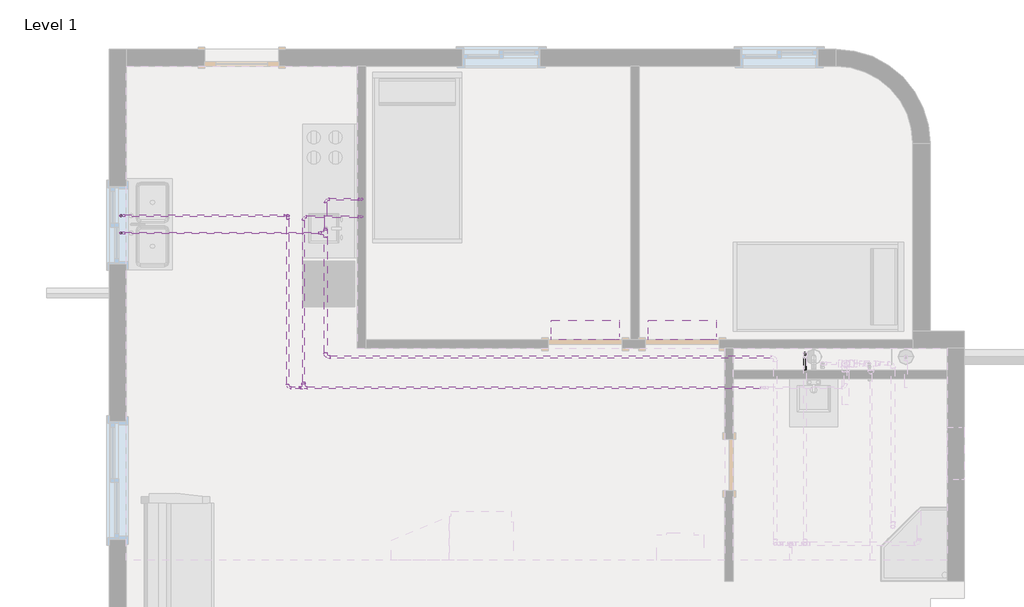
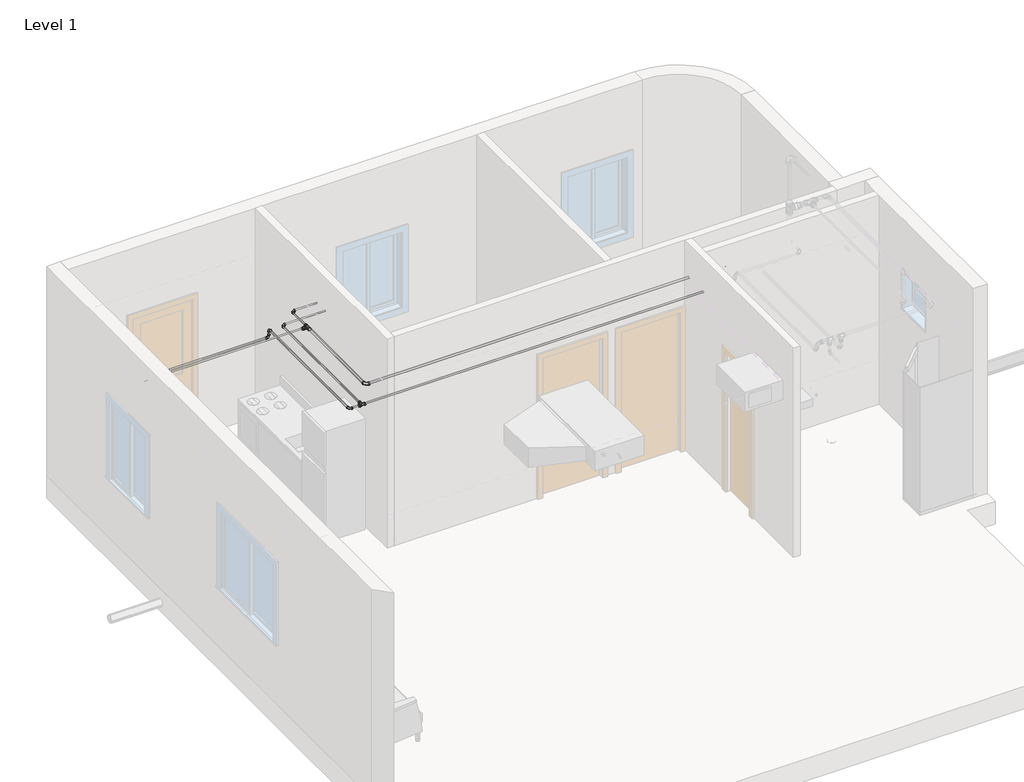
# One storey, part 4 of 5: 29 pipe fittings, 29 pipe segments, 2 proxies.
"""IFC4 building model written with IfcOpenShell, lengths in millimetres."""

from ifc_helpers import new_model, si_unit, point, frame, frame_2d, origin, place, context, project, spatial, circle_curve, trimmed, segment, composite_curve, outline, extrude, transform, mapped, element, save
from components import proxy_2_9kw_1a9f3e23, m_bend_pvc_sch_40_dwv_standard_b153bf5a, m_bend_pvc_sch_40_dwv_standard_42e46e6b, m_bend_pvc_sch_40_dwv_standard_738aab8b, m_bend_pvc_sch_40_dwv_standard_5de4d804, m_reducer_pvc_sch_40_dwv_standard_d6f2da47, m_reducer_pvc_sch_40_dwv_standard_9acc3786, m_reducer_pvc_sch_40_dwv_standard_9996614f, m_reducer_pvc_sch_40_dwv_standard_1887a0f2, m_reducer_pvc_sch_40_dwv_standard_435e6c66, m_tee_sanitary_pvc_sch_40_dwv_standard_64dc8774, m_tee_sanitary_pvc_sch_40_dwv_standard_52472e72

model = new_model("IFC4")

# Units and contexts
model_context = context("Model", 3, world=origin())
ifc_project = project(units=[si_unit("LENGTHUNIT", "METRE", prefix="MILLI")], contexts=[model_context])

# Site, building, storey
site = spatial("IfcSite", under=ifc_project)
building = spatial("IfcBuilding", under=site)
storey = spatial("IfcBuildingStorey", under=building, Name="Level 1", Elevation=0.0)

# Proxies
placement = place(None, origin())
proxy_2_9kw_shape = proxy_2_9kw_1a9f3e23(model_context)
element("IfcBuildingElementProxy", 1, Name="Fan_Coil_Unit-Daikin-FXAQ-P-WallMount-ConnBack : 2.9Kw", ObjectType="Fan_Coil_Unit-Daikin-FXAQ-P-WallMount-ConnBack : 2.9Kw", at=placement, inside=storey, context=model_context, shape_type="MappedRepresentation", body=[
    mapped(proxy_2_9kw_shape, transform((-11794.9123896, 960.4550672, 2550.05), x_axis=(-1.0000000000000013, 0.0, 0.0), y_axis=(0.0, -1.0000000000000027, 0.0), z_axis=(0.0, 0.0, 1.0000000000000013))),
])
element("IfcBuildingElementProxy", 2, Name="Fan_Coil_Unit-Daikin-FXAQ-P-WallMount-ConnBack : 2.9Kw", ObjectType="Fan_Coil_Unit-Daikin-FXAQ-P-WallMount-ConnBack : 2.9Kw", at=placement, inside=storey, context=model_context, shape_type="MappedRepresentation", body=[
    mapped(proxy_2_9kw_shape, transform((-10662.9123896, 960.4550672, 2550.05), x_axis=(-1.0000000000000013, 0.0, 0.0), y_axis=(0.0, -1.0000000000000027, 0.0), z_axis=(0.0, 0.0, 1.0000000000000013))),
])

# Pipe fittings
m_bend_pvc_sch_40_dwv_standard_shape = m_bend_pvc_sch_40_dwv_standard_b153bf5a(model_context)
element("IfcPipeFitting", 3, ObjectType="M_Bend - PVC - Sch 40 - DWV : Standard", at=placement, inside=storey, context=model_context, shape_type="MappedRepresentation", body=[
    mapped(m_bend_pvc_sch_40_dwv_standard_shape, transform((-14832.9118821, 644.5675672, 2690.029654), x_axis=(0.0, -0.9999999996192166, -2.7596499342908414e-05), y_axis=(0.9999999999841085, 1.5557919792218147e-10, -5.637642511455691e-06), z_axis=(5.637642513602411e-06, -2.7596499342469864e-05, 0.9999999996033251))),
])
m_bend_pvc_sch_40_dwv_standard_2_shape = m_bend_pvc_sch_40_dwv_standard_42e46e6b(model_context)
element("IfcPipeFitting", 4, ObjectType="M_Bend - PVC - Sch 40 - DWV : Standard", at=placement, inside=storey, context=model_context, shape_type="MappedRepresentation", body=[
    mapped(m_bend_pvc_sch_40_dwv_standard_2_shape, transform((-17105.7623896, 2298.6675672, 755.0), x_axis=(0.0, 0.0, -1.0), y_axis=(-1.0, 0.0, 0.0), z_axis=(0.0, 1.0, 0.0))),
])
element("IfcPipeFitting", 5, ObjectType="M_Bend - PVC - Sch 40 - DWV : Standard", at=placement, inside=storey, context=model_context, shape_type="MappedRepresentation", body=[
    mapped(m_bend_pvc_sch_40_dwv_standard_2_shape, transform((-17225.7623896, 2298.6675672, 755.0), x_axis=(-1.0, 0.0, 0.0), y_axis=(0.0, 0.0, 1.0), z_axis=(0.0, 1.0, 0.0))),
])
element("IfcPipeFitting", 6, ObjectType="M_Bend - PVC - Sch 40 - DWV : Standard", at=placement, inside=storey, context=model_context, shape_type="MappedRepresentation", body=[
    mapped(m_bend_pvc_sch_40_dwv_standard_2_shape, transform((-17225.7623896, 2095.4675672, 755.0), x_axis=(-1.0, 0.0, 0.0), y_axis=(0.0, 0.0, 1.0), z_axis=(0.0, 1.0, 0.0))),
])
element("IfcPipeFitting", 7, ObjectType="M_Bend - PVC - Sch 40 - DWV : Standard", at=placement, inside=storey, context=model_context, shape_type="MappedRepresentation", body=[
    mapped(m_bend_pvc_sch_40_dwv_standard_2_shape, transform((-17105.7623896, 2095.4675672, 755.0), x_axis=(1.0, 0.0, 0.0), y_axis=(0.0, 0.0, 1.0), z_axis=(0.0, -1.0, 0.0))),
])
element("IfcPipeFitting", 8, ObjectType="M_Bend - PVC - Sch 40 - DWV : Standard", at=placement, inside=storey, context=model_context, shape_type="MappedRepresentation", body=[
    mapped(m_bend_pvc_sch_40_dwv_standard_2_shape, transform((-14412.9123896, 2286.2683858, 731.8375), x_axis=(1.0, 0.0, 0.0), y_axis=(0.0, 0.0, 1.0), z_axis=(0.0, -1.0, 0.0))),
])
element("IfcPipeFitting", 9, ObjectType="M_Bend - PVC - Sch 40 - DWV : Standard", at=placement, inside=storey, context=model_context, shape_type="MappedRepresentation", body=[
    mapped(m_bend_pvc_sch_40_dwv_standard_2_shape, transform((-14412.9123896, 2489.4683858, 731.8375), x_axis=(1.0, 0.0, 0.0), y_axis=(0.0, 0.0, 1.0), z_axis=(0.0, -1.0, 0.0))),
])
element("IfcPipeFitting", 10, ObjectType="M_Bend - PVC - Sch 40 - DWV : Standard", at=placement, inside=storey, context=model_context, shape_type="MappedRepresentation", body=[
    mapped(m_bend_pvc_sch_40_dwv_standard_2_shape, transform((-14412.9123896, 2489.4631116, 2690.0704647), x_axis=(0.0, 0.0, 1.0), y_axis=(-1.0, 0.0, 0.0), z_axis=(0.0, -1.0, 0.0))),
])
element("IfcPipeFitting", 11, ObjectType="M_Bend - PVC - Sch 40 - DWV : Standard", at=placement, inside=storey, context=model_context, shape_type="MappedRepresentation", body=[
    mapped(m_bend_pvc_sch_40_dwv_standard_2_shape, transform((-14832.9118821, 2489.4631116, 2690.0704647), x_axis=(-1.0, 0.0, 0.0), y_axis=(0.0, -1.0, 0.0), z_axis=(0.0, 0.0, 1.0))),
])
element("IfcPipeFitting", 12, ObjectType="M_Bend - PVC - Sch 40 - DWV : Standard", at=placement, inside=storey, context=model_context, shape_type="MappedRepresentation", body=[
    mapped(m_bend_pvc_sch_40_dwv_standard_2_shape, transform((-17225.7623896, 2298.6675672, 2567.7663747), x_axis=(0.0, 0.0, 1.0), y_axis=(0.9999797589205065, -0.006362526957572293, 0.0), z_axis=(0.006362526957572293, 0.9999797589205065, 0.0))),
])
element("IfcPipeFitting", 13, ObjectType="M_Bend - PVC - Sch 40 - DWV : Standard", at=placement, inside=storey, context=model_context, shape_type="MappedRepresentation", body=[
    mapped(m_bend_pvc_sch_40_dwv_standard_2_shape, transform((-15274.7491573, 2298.4066141, 2567.7663747), x_axis=(0.0, 0.0, -1.0), y_axis=(-0.9999797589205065, 0.006362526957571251, 0.0), z_axis=(0.006362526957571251, 0.9999797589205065, 0.0))),
])
element("IfcPipeFitting", 14, ObjectType="M_Bend - PVC - Sch 40 - DWV : Standard", at=placement, inside=storey, context=model_context, shape_type="MappedRepresentation", body=[
    mapped(m_bend_pvc_sch_40_dwv_standard_2_shape, transform((-14412.9123896, 2286.2683858, 2690.0), x_axis=(0.0, 0.0, 1.0), y_axis=(-1.0, 0.0, 0.0), z_axis=(0.0, -1.0, 0.0))),
])
element("IfcPipeFitting", 15, ObjectType="M_Bend - PVC - Sch 40 - DWV : Standard", at=placement, inside=storey, context=model_context, shape_type="MappedRepresentation", body=[
    mapped(m_bend_pvc_sch_40_dwv_standard_2_shape, transform((-15274.7491573, 2298.4066141, 2690.0), x_axis=(0.0, 0.0, 1.0), y_axis=(0.0, -1.0, 0.0), z_axis=(1.0, 0.0, 0.0))),
])
element("IfcPipeFitting", 16, ObjectType="M_Bend - PVC - Sch 40 - DWV : Standard", at=placement, inside=storey, context=model_context, shape_type="MappedRepresentation", body=[
    mapped(m_bend_pvc_sch_40_dwv_standard_2_shape, transform((-15274.7491573, 286.2683858, 2690.0), x_axis=(0.0, -1.0, 0.0), y_axis=(1.0, 0.0, 0.0), z_axis=(0.0, 0.0, 1.0))),
])
element("IfcPipeFitting", 17, ObjectType="M_Bend - PVC - Sch 40 - DWV : Standard", at=placement, inside=storey, context=model_context, shape_type="MappedRepresentation", body=[
    mapped(m_bend_pvc_sch_40_dwv_standard_2_shape, transform((-15091.8983271, 2286.2683858, 2690.0), x_axis=(-1.0, 0.0, 0.0), y_axis=(0.0, -1.0, 0.0), z_axis=(0.0, 0.0, 1.0))),
])
m_bend_pvc_sch_40_dwv_standard_3_shape = m_bend_pvc_sch_40_dwv_standard_738aab8b(model_context)
element("IfcPipeFitting", 18, ObjectType="M_Bend - PVC - Sch 40 - DWV : Standard", at=placement, inside=storey, context=model_context, shape_type="MappedRepresentation", body=[
    mapped(m_bend_pvc_sch_40_dwv_standard_3_shape, transform((-16857.3123896, 2453.7925672, -205.0), x_axis=(0.0, 0.0, -1.0), y_axis=(0.0, -1.0, 0.0), z_axis=(-1.0, 0.0, 0.0))),
])
element("IfcPipeFitting", 19, ObjectType="M_Bend - PVC - Sch 40 - DWV : Standard", at=placement, inside=storey, context=model_context, shape_type="MappedRepresentation", body=[
    mapped(m_bend_pvc_sch_40_dwv_standard_3_shape, transform((-14831.2123896, 2148.5996358, -205.0), x_axis=(0.0, 0.0, -1.0), y_axis=(0.0, -1.0, 0.0), z_axis=(-1.0, 0.0, 0.0))),
])
element("IfcPipeFitting", 20, ObjectType="M_Bend - PVC - Sch 40 - DWV : Standard", at=placement, inside=storey, context=model_context, shape_type="MappedRepresentation", body=[
    mapped(m_bend_pvc_sch_40_dwv_standard_3_shape, transform((-14831.2123896, 1392.8931268, -205.0), x_axis=(1.0, 0.0, 0.0), y_axis=(0.0, 1.0, 0.0), z_axis=(0.0, 0.0, 1.0))),
])
m_bend_pvc_sch_40_dwv_standard_4_shape = m_bend_pvc_sch_40_dwv_standard_5de4d804(model_context)
element("IfcPipeFitting", 21, ObjectType="M_Bend - PVC - Sch 40 - DWV : Standard", at=placement, inside=storey, context=model_context, shape_type="MappedRepresentation", body=[
    mapped(m_bend_pvc_sch_40_dwv_standard_4_shape, transform((-17225.7618668, 2095.462293, 2690.0798723), x_axis=(0.0, 0.0, 1.0), y_axis=(1.0, 0.0, 0.0), z_axis=(0.0, 1.0, 0.0))),
])
m_reducer_pvc_sch_40_dwv_standard_shape = m_reducer_pvc_sch_40_dwv_standard_d6f2da47(model_context)
element("IfcPipeFitting", 22, ObjectType="M_Reducer - PVC - Sch 40 - DWV : Standard", at=placement, inside=storey, context=model_context, shape_type="MappedRepresentation", body=[
    mapped(m_reducer_pvc_sch_40_dwv_standard_shape, transform((-16857.3123896, 2012.9581922, -205.0), x_axis=(0.0, 1.0, 0.0), y_axis=(-1.0, 0.0, 0.0), z_axis=(0.0, 0.0, 1.0))),
])
element("IfcPipeFitting", 23, ObjectType="M_Reducer - PVC - Sch 40 - DWV : Standard", at=placement, inside=storey, context=model_context, shape_type="MappedRepresentation", body=[
    mapped(m_reducer_pvc_sch_40_dwv_standard_shape, transform((-16857.3123896, 1940.3425672, -105.9859375), x_axis=(0.0, 0.0, 1.0), y_axis=(0.0, 1.0, 0.0), z_axis=(-1.0, 0.0, 0.0))),
])
m_reducer_pvc_sch_40_dwv_standard_2_shape = m_reducer_pvc_sch_40_dwv_standard_9acc3786(model_context)
element("IfcPipeFitting", 24, ObjectType="M_Reducer - PVC - Sch 40 - DWV : Standard", at=placement, inside=storey, context=model_context, shape_type="MappedRepresentation", body=[
    mapped(m_reducer_pvc_sch_40_dwv_standard_2_shape, transform((-16755.7123896, 1392.8931268, -205.0), x_axis=(1.0, 0.0, 0.0), y_axis=(0.0, 1.0, 0.0), z_axis=(0.0, 0.0, 1.0))),
])
m_reducer_pvc_sch_40_dwv_standard_3_shape = m_reducer_pvc_sch_40_dwv_standard_9996614f(model_context)
element("IfcPipeFitting", 25, ObjectType="M_Reducer - PVC - Sch 40 - DWV : Standard", at=placement, inside=storey, context=model_context, shape_type="MappedRepresentation", body=[
    mapped(m_reducer_pvc_sch_40_dwv_standard_3_shape, transform((-16857.3123896, 1535.7681268, -205.0), x_axis=(0.0, 1.0, 0.0), y_axis=(-1.0, 0.0, 0.0), z_axis=(0.0, 0.0, 1.0))),
])
m_reducer_pvc_sch_40_dwv_standard_4_shape = m_reducer_pvc_sch_40_dwv_standard_1887a0f2(model_context)
element("IfcPipeFitting", 26, ObjectType="M_Reducer - PVC - Sch 40 - DWV : Standard", at=placement, inside=storey, context=model_context, shape_type="MappedRepresentation", body=[
    mapped(m_reducer_pvc_sch_40_dwv_standard_4_shape, transform((-14832.9118821, 2126.077918, 2690.070756), x_axis=(0.0, 0.9999999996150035, 2.7748749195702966e-05), y_axis=(-0.9999999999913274, -1.1556816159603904e-10, 4.164806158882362e-06), z_axis=(4.164806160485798e-06, -2.7748749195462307e-05, 0.9999999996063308))),
])
element("IfcPipeFitting", 27, ObjectType="M_Reducer - PVC - Sch 40 - DWV : Standard", at=placement, inside=storey, context=model_context, shape_type="MappedRepresentation", body=[
    mapped(m_reducer_pvc_sch_40_dwv_standard_4_shape, transform((-14885.5259446, 2095.462293, 2690.0701256), x_axis=(-0.9999999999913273, 0.0, 4.164806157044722e-06), y_axis=(-1.155681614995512e-10, -0.9999999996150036, -2.7748749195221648e-05), z_axis=(4.164806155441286e-06, -2.7748749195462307e-05, 0.9999999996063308))),
])
m_reducer_pvc_sch_40_dwv_standard_5_shape = m_reducer_pvc_sch_40_dwv_standard_435e6c66(model_context)
element("IfcPipeFitting", 28, ObjectType="M_Reducer - PVC - Sch 40 - DWV : Standard", at=placement, inside=storey, context=model_context, shape_type="MappedRepresentation", body=[
    mapped(m_reducer_pvc_sch_40_dwv_standard_5_shape, transform((-15117.2639521, 286.2683858, 2690.0), x_axis=(-1.0, 0.0, 0.0), y_axis=(0.0, -1.0, 0.0), z_axis=(0.0, 0.0, 1.0))),
])
element("IfcPipeFitting", 29, ObjectType="M_Reducer - PVC - Sch 40 - DWV : Standard", at=placement, inside=storey, context=model_context, shape_type="MappedRepresentation", body=[
    mapped(m_reducer_pvc_sch_40_dwv_standard_5_shape, transform((-15091.8983271, 333.0824483, 2690.0), x_axis=(0.0, 1.0, 0.0), y_axis=(-1.0, 0.0, 0.0), z_axis=(0.0, 0.0, 1.0))),
])
m_tee_sanitary_pvc_sch_40_dwv_standard_shape = m_tee_sanitary_pvc_sch_40_dwv_standard_64dc8774(model_context)
element("IfcPipeFitting", 30, ObjectType="M_Tee Sanitary - PVC - Sch 40 - DWV : Standard", at=placement, inside=storey, context=model_context, shape_type="MappedRepresentation", body=[
    mapped(m_tee_sanitary_pvc_sch_40_dwv_standard_shape, transform((-14832.9118821, 2095.462293, 2690.0699065), x_axis=(0.0, 0.9999999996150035, 2.7748749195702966e-05), y_axis=(0.9999999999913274, 1.1556816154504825e-10, -4.164806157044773e-06), z_axis=(-4.164806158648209e-06, 2.774874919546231e-05, -0.9999999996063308))),
])
m_tee_sanitary_pvc_sch_40_dwv_standard_2_shape = m_tee_sanitary_pvc_sch_40_dwv_standard_52472e72(model_context)
element("IfcPipeFitting", 31, ObjectType="M_Tee Sanitary - PVC - Sch 40 - DWV : Standard", at=placement, inside=storey, context=model_context, shape_type="MappedRepresentation", body=[
    mapped(m_tee_sanitary_pvc_sch_40_dwv_standard_2_shape, transform((-15091.8983271, 286.2683858, 2690.0), x_axis=(-1.0, 0.0, 0.0), y_axis=(0.0, -1.0, 0.0), z_axis=(0.0, 0.0, 1.0))),
])

# Pipe segments
element("IfcPipeSegment", 32, ObjectType="PVC - DWV", at=placement, inside=storey, context=model_context, shape_type="SweptSolid", body=[
    extrude(outline(composite_curve([segment(trimmed(circle_curve(frame_2d((814.2, -9225.3942941)), 16.7005), [point((814.2, -9208.6937941))], [point((830.9005, -9225.3942941))], False, "CARTESIAN"), True, "CONTINUOUS"), segment(trimmed(circle_curve(frame_2d((814.2, -9225.3942941)), 16.7005), [point((830.9005, -9225.3942941))], [point((814.2, -9242.0947941))], False, "CARTESIAN"), True, "CONTINUOUS"), segment(trimmed(circle_curve(frame_2d((814.2, -9225.3942941)), 16.7005), [point((814.2, -9242.0947941))], [point((797.4995, -9225.3942941))], False, "CARTESIAN"), True, "CONTINUOUS"), segment(trimmed(circle_curve(frame_2d((814.2, -9225.3942941)), 16.7005), [point((797.4995, -9225.3942941))], [point((814.2, -9208.6937941))], False, "CARTESIAN"), True, "CONTINUOUS")], self_intersect=False)), frame((0.0, 387.9749846, 0.0), z_axis=(0.0, 1.0, 0.0), x_axis=(0.0, 0.0, 1.0)), (0.0, 0.0, 1.0), 243.9785201),
])
element("IfcPipeSegment", 33, ObjectType="PVC - DWV", at=placement, inside=storey, context=model_context, shape_type="SweptSolid", body=[
    extrude(outline(composite_curve([segment(trimmed(circle_curve(frame_2d((-9225.3942941, 684.5675672)), 16.7005), [point((-9242.0947941, 684.5675672))], [point((-9225.3942941, 701.2680672))], False, "CARTESIAN"), True, "CONTINUOUS"), segment(trimmed(circle_curve(frame_2d((-9225.3942941, 684.5675672)), 16.7005), [point((-9225.3942941, 701.2680672))], [point((-9208.6937941, 684.5675672))], False, "CARTESIAN"), True, "CONTINUOUS"), segment(trimmed(circle_curve(frame_2d((-9225.3942941, 684.5675672)), 16.7005), [point((-9208.6937941, 684.5675672))], [point((-9225.3942941, 667.8670672))], False, "CARTESIAN"), True, "CONTINUOUS"), segment(trimmed(circle_curve(frame_2d((-9225.3942941, 684.5675672)), 16.7005), [point((-9225.3942941, 667.8670672))], [point((-9242.0947941, 684.5675672))], False, "CARTESIAN"), True, "CONTINUOUS")], self_intersect=False)), frame((0.0, 0.0, 866.8140625), z_axis=(0.0, 0.0, 1.0), x_axis=(1.0, 0.0, 0.0)), (0.0, 0.0, 1.0), 1680.571875),
])
element("IfcPipeSegment", 34, ObjectType="PVC - DWV", at=placement, inside=storey, context=model_context, shape_type="SweptSolid", body=[
    extrude(outline(composite_curve([segment(trimmed(circle_curve(frame_2d((-16857.3123896, 2453.7925672)), 24.13), [point((-16833.1823896, 2453.7925672))], [point((-16857.3123896, 2429.6625672))], False, "CARTESIAN"), True, "CONTINUOUS"), segment(trimmed(circle_curve(frame_2d((-16857.3123896, 2453.7925672)), 24.13), [point((-16857.3123896, 2429.6625672))], [point((-16881.4423896, 2453.7925672))], False, "CARTESIAN"), True, "CONTINUOUS"), segment(trimmed(circle_curve(frame_2d((-16857.3123896, 2453.7925672)), 24.13), [point((-16881.4423896, 2453.7925672))], [point((-16857.3123896, 2477.9225672))], False, "CARTESIAN"), True, "CONTINUOUS"), segment(trimmed(circle_curve(frame_2d((-16857.3123896, 2453.7925672)), 24.13), [point((-16857.3123896, 2477.9225672))], [point((-16833.1823896, 2453.7925672))], False, "CARTESIAN"), True, "CONTINUOUS")], self_intersect=False)), frame((0.0, 0.0, -143.1002), z_axis=(0.0, 0.0, 1.0), x_axis=(1.0, 0.0, 0.0)), (0.0, 0.0, 1.0), 843.5752),
])
element("IfcPipeSegment", 35, ObjectType="PVC - DWV", at=placement, inside=storey, context=model_context, shape_type="SweptSolid", body=[
    extrude(outline(composite_curve([segment(trimmed(circle_curve(frame_2d((-205.0, -16857.3123896)), 24.13), [point((-205.0, -16881.4423896))], [point((-229.13, -16857.3123896))], False, "CARTESIAN"), True, "CONTINUOUS"), segment(trimmed(circle_curve(frame_2d((-205.0, -16857.3123896)), 24.13), [point((-229.13, -16857.3123896))], [point((-205.0, -16833.1823896))], False, "CARTESIAN"), True, "CONTINUOUS"), segment(trimmed(circle_curve(frame_2d((-205.0, -16857.3123896)), 24.13), [point((-205.0, -16833.1823896))], [point((-180.87, -16857.3123896))], False, "CARTESIAN"), True, "CONTINUOUS"), segment(trimmed(circle_curve(frame_2d((-205.0, -16857.3123896)), 24.13), [point((-180.87, -16857.3123896))], [point((-205.0, -16881.4423896))], False, "CARTESIAN"), True, "CONTINUOUS")], self_intersect=False)), frame((0.0, 2080.404286, 0.0), z_axis=(0.0, 1.0, 0.0), x_axis=(0.0, 0.0, 1.0)), (0.0, 0.0, 1.0), 311.4884812),
])
element("IfcPipeSegment", 36, ObjectType="PVC - DWV", at=placement, inside=storey, context=model_context, shape_type="SweptSolid", body=[
    extrude(outline(composite_curve([segment(trimmed(circle_curve(frame_2d((-14831.2123896, 2148.5996358)), 24.13), [point((-14807.0823896, 2148.5996358))], [point((-14831.2123896, 2124.4696358))], False, "CARTESIAN"), True, "CONTINUOUS"), segment(trimmed(circle_curve(frame_2d((-14831.2123896, 2148.5996358)), 24.13), [point((-14831.2123896, 2124.4696358))], [point((-14855.3423896, 2148.5996358))], False, "CARTESIAN"), True, "CONTINUOUS"), segment(trimmed(circle_curve(frame_2d((-14831.2123896, 2148.5996358)), 24.13), [point((-14855.3423896, 2148.5996358))], [point((-14831.2123896, 2172.7296358))], False, "CARTESIAN"), True, "CONTINUOUS"), segment(trimmed(circle_curve(frame_2d((-14831.2123896, 2148.5996358)), 24.13), [point((-14831.2123896, 2172.7296358))], [point((-14807.0823896, 2148.5996358))], False, "CARTESIAN"), True, "CONTINUOUS")], self_intersect=False)), frame((0.0, 0.0, -143.1002), z_axis=(0.0, 0.0, 1.0), x_axis=(1.0, 0.0, 0.0)), (0.0, 0.0, 1.0), 874.9377),
])
element("IfcPipeSegment", 37, ObjectType="PVC - DWV", at=placement, inside=storey, context=model_context, shape_type="SweptSolid", body=[
    extrude(outline(composite_curve([segment(trimmed(circle_curve(frame_2d((-205.0, -14831.2123896)), 24.13), [point((-205.0, -14855.3423896))], [point((-229.13, -14831.2123896))], False, "CARTESIAN"), True, "CONTINUOUS"), segment(trimmed(circle_curve(frame_2d((-205.0, -14831.2123896)), 24.13), [point((-229.13, -14831.2123896))], [point((-205.0, -14807.0823896))], False, "CARTESIAN"), True, "CONTINUOUS"), segment(trimmed(circle_curve(frame_2d((-205.0, -14831.2123896)), 24.13), [point((-205.0, -14807.0823896))], [point((-180.87, -14831.2123896))], False, "CARTESIAN"), True, "CONTINUOUS"), segment(trimmed(circle_curve(frame_2d((-205.0, -14831.2123896)), 24.13), [point((-180.87, -14831.2123896))], [point((-205.0, -14855.3423896))], False, "CARTESIAN"), True, "CONTINUOUS")], self_intersect=False)), frame((0.0, 1454.7929268, 0.0), z_axis=(0.0, 1.0, 0.0), x_axis=(0.0, 0.0, 1.0)), (0.0, 0.0, 1.0), 631.906909),
])
element("IfcPipeSegment", 38, ObjectType="PVC - DWV", at=placement, inside=storey, context=model_context, shape_type="SweptSolid", body=[
    extrude(outline(composite_curve([segment(trimmed(circle_curve(frame_2d((1392.8931268, -205.0)), 24.13), [point((1417.0231268, -205.0))], [point((1392.8931268, -229.13))], False, "CARTESIAN"), True, "CONTINUOUS"), segment(trimmed(circle_curve(frame_2d((1392.8931268, -205.0)), 24.13), [point((1392.8931268, -229.13))], [point((1368.7631268, -205.0))], False, "CARTESIAN"), True, "CONTINUOUS"), segment(trimmed(circle_curve(frame_2d((1392.8931268, -205.0)), 24.13), [point((1368.7631268, -205.0))], [point((1392.8931268, -180.87))], False, "CARTESIAN"), True, "CONTINUOUS"), segment(trimmed(circle_curve(frame_2d((1392.8931268, -205.0)), 24.13), [point((1392.8931268, -180.87))], [point((1417.0231268, -205.0))], False, "CARTESIAN"), True, "CONTINUOUS")], self_intersect=False)), frame((-16655.0162959, 0.0, 0.0), z_axis=(1.0, 0.0, 0.0), x_axis=(0.0, 1.0, 0.0)), (0.0, 0.0, 1.0), 1761.9041062),
])
element("IfcPipeSegment", 39, ObjectType="PVC - DWV", at=placement, inside=storey, context=model_context, shape_type="SweptSolid", body=[
    extrude(outline(composite_curve([segment(trimmed(circle_curve(frame_2d((-17105.7623896, 2298.6675672)), 10.668), [point((-17095.0943896, 2298.6675672))], [point((-17105.7623896, 2287.9995672))], False, "CARTESIAN"), True, "CONTINUOUS"), segment(trimmed(circle_curve(frame_2d((-17105.7623896, 2298.6675672)), 10.668), [point((-17105.7623896, 2287.9995672))], [point((-17116.4303896, 2298.6675672))], False, "CARTESIAN"), True, "CONTINUOUS"), segment(trimmed(circle_curve(frame_2d((-17105.7623896, 2298.6675672)), 10.668), [point((-17116.4303896, 2298.6675672))], [point((-17105.7623896, 2309.3355672))], False, "CARTESIAN"), True, "CONTINUOUS"), segment(trimmed(circle_curve(frame_2d((-17105.7623896, 2298.6675672)), 10.668), [point((-17105.7623896, 2309.3355672))], [point((-17095.0943896, 2298.6675672))], False, "CARTESIAN"), True, "CONTINUOUS")], self_intersect=False)), frame((0.0, 0.0, 796.0140625), z_axis=(0.0, 0.0, 1.0), x_axis=(1.0, 0.0, 0.0)), (0.0, 0.0, 1.0), 118.9859375),
])
element("IfcPipeSegment", 40, ObjectType="PVC - DWV", at=placement, inside=storey, context=model_context, shape_type="SweptSolid", body=[
    extrude(outline(composite_curve([segment(trimmed(circle_curve(frame_2d((2298.6675672, 755.0)), 10.668), [point((2309.3355672, 755.0))], [point((2298.6675672, 744.332))], False, "CARTESIAN"), True, "CONTINUOUS"), segment(trimmed(circle_curve(frame_2d((2298.6675672, 755.0)), 10.668), [point((2298.6675672, 744.332))], [point((2287.9995672, 755.0))], False, "CARTESIAN"), True, "CONTINUOUS"), segment(trimmed(circle_curve(frame_2d((2298.6675672, 755.0)), 10.668), [point((2287.9995672, 755.0))], [point((2298.6675672, 765.668))], False, "CARTESIAN"), True, "CONTINUOUS"), segment(trimmed(circle_curve(frame_2d((2298.6675672, 755.0)), 10.668), [point((2298.6675672, 765.668))], [point((2309.3355672, 755.0))], False, "CARTESIAN"), True, "CONTINUOUS")], self_intersect=False)), frame((-17184.7483271, 0.0, 0.0), z_axis=(1.0, 0.0, 0.0), x_axis=(0.0, 1.0, 0.0)), (0.0, 0.0, 1.0), 37.971875),
])
element("IfcPipeSegment", 41, ObjectType="PVC - DWV", at=placement, inside=storey, context=model_context, shape_type="SweptSolid", body=[
    extrude(outline(composite_curve([segment(trimmed(circle_curve(frame_2d((-17225.7623896, 2298.6675672)), 10.668), [point((-17236.4303896, 2298.6675672))], [point((-17225.7623896, 2309.3355672))], False, "CARTESIAN"), True, "CONTINUOUS"), segment(trimmed(circle_curve(frame_2d((-17225.7623896, 2298.6675672)), 10.668), [point((-17225.7623896, 2309.3355672))], [point((-17215.0943896, 2298.6675672))], False, "CARTESIAN"), True, "CONTINUOUS"), segment(trimmed(circle_curve(frame_2d((-17225.7623896, 2298.6675672)), 10.668), [point((-17215.0943896, 2298.6675672))], [point((-17225.7623896, 2287.9995672))], False, "CARTESIAN"), True, "CONTINUOUS"), segment(trimmed(circle_curve(frame_2d((-17225.7623896, 2298.6675672)), 10.668), [point((-17225.7623896, 2287.9995672))], [point((-17236.4303896, 2298.6675672))], False, "CARTESIAN"), True, "CONTINUOUS")], self_intersect=False)), frame((0.0, 0.0, 796.0140625), z_axis=(0.0, 0.0, 1.0), x_axis=(1.0, 0.0, 0.0)), (0.0, 0.0, 1.0), 1730.7382497),
])
element("IfcPipeSegment", 42, ObjectType="PVC - DWV", at=placement, inside=storey, context=model_context, shape_type="SweptSolid", body=[
    extrude(outline(composite_curve([segment(trimmed(circle_curve(frame_2d((-17105.7623896, 2095.4675672)), 10.668), [point((-17116.4303896, 2095.4675672))], [point((-17105.7623896, 2106.1355672))], False, "CARTESIAN"), True, "CONTINUOUS"), segment(trimmed(circle_curve(frame_2d((-17105.7623896, 2095.4675672)), 10.668), [point((-17105.7623896, 2106.1355672))], [point((-17095.0943896, 2095.4675672))], False, "CARTESIAN"), True, "CONTINUOUS"), segment(trimmed(circle_curve(frame_2d((-17105.7623896, 2095.4675672)), 10.668), [point((-17095.0943896, 2095.4675672))], [point((-17105.7623896, 2084.7995672))], False, "CARTESIAN"), True, "CONTINUOUS"), segment(trimmed(circle_curve(frame_2d((-17105.7623896, 2095.4675672)), 10.668), [point((-17105.7623896, 2084.7995672))], [point((-17116.4303896, 2095.4675672))], False, "CARTESIAN"), True, "CONTINUOUS")], self_intersect=False)), frame((0.0, 0.0, 796.0140625), z_axis=(0.0, 0.0, 1.0), x_axis=(1.0, 0.0, 0.0)), (0.0, 0.0, 1.0), 118.9859375),
])
element("IfcPipeSegment", 43, ObjectType="PVC - DWV", at=placement, inside=storey, context=model_context, shape_type="SweptSolid", body=[
    extrude(outline(composite_curve([segment(trimmed(circle_curve(frame_2d((2095.4675672, 755.0)), 10.668), [point((2106.1355672, 755.0))], [point((2095.4675672, 744.332))], False, "CARTESIAN"), True, "CONTINUOUS"), segment(trimmed(circle_curve(frame_2d((2095.4675672, 755.0)), 10.668), [point((2095.4675672, 744.332))], [point((2084.7995672, 755.0))], False, "CARTESIAN"), True, "CONTINUOUS"), segment(trimmed(circle_curve(frame_2d((2095.4675672, 755.0)), 10.668), [point((2084.7995672, 755.0))], [point((2095.4675672, 765.668))], False, "CARTESIAN"), True, "CONTINUOUS"), segment(trimmed(circle_curve(frame_2d((2095.4675672, 755.0)), 10.668), [point((2095.4675672, 765.668))], [point((2106.1355672, 755.0))], False, "CARTESIAN"), True, "CONTINUOUS")], self_intersect=False)), frame((-17184.7483271, 0.0, 0.0), z_axis=(1.0, 0.0, 0.0), x_axis=(0.0, 1.0, 0.0)), (0.0, 0.0, 1.0), 37.971875),
])
element("IfcPipeSegment", 44, ObjectType="PVC - DWV", at=placement, inside=storey, context=model_context, shape_type="SweptSolid", body=[
    extrude(outline(composite_curve([segment(trimmed(circle_curve(frame_2d((0.0, 10.668)), 10.668), [point((-10.668, 10.668))], [point((0.0, 21.336))], False, "CARTESIAN"), True, "CONTINUOUS"), segment(trimmed(circle_curve(frame_2d((0.0, 10.668)), 10.668), [point((0.0, 21.336))], [point((10.668, 10.668))], False, "CARTESIAN"), True, "CONTINUOUS"), segment(trimmed(circle_curve(frame_2d((0.0, 10.668)), 10.668), [point((10.668, 10.668))], [point((0.0, 0.0))], False, "CARTESIAN"), True, "CONTINUOUS"), segment(trimmed(circle_curve(frame_2d((0.0, 10.668)), 10.668), [point((0.0, 0.0))], [point((-10.668, 10.668))], False, "CARTESIAN"), True, "CONTINUOUS")], self_intersect=False)), frame((-17225.7623896, 2084.7995672, 796.0140321), z_axis=(2.8216090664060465e-07, -2.846211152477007e-06, 0.9999999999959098), x_axis=(0.9999999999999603, 0.0, -2.8216090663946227e-07)), (0.0, 0.0, 1.0), 1853.0517473),
])
element("IfcPipeSegment", 45, ObjectType="PVC - DWV", at=placement, inside=storey, context=model_context, shape_type="SweptSolid", body=[
    extrude(outline(composite_curve([segment(trimmed(circle_curve(frame_2d((2286.2683858, 731.8375)), 10.668), [point((2275.6003858, 731.8375))], [point((2286.2683858, 742.5055))], False, "CARTESIAN"), True, "CONTINUOUS"), segment(trimmed(circle_curve(frame_2d((2286.2683858, 731.8375)), 10.668), [point((2286.2683858, 742.5055))], [point((2296.9363858, 731.8375))], False, "CARTESIAN"), True, "CONTINUOUS"), segment(trimmed(circle_curve(frame_2d((2286.2683858, 731.8375)), 10.668), [point((2296.9363858, 731.8375))], [point((2286.2683858, 721.1695))], False, "CARTESIAN"), True, "CONTINUOUS"), segment(trimmed(circle_curve(frame_2d((2286.2683858, 731.8375)), 10.668), [point((2286.2683858, 721.1695))], [point((2275.6003858, 731.8375))], False, "CARTESIAN"), True, "CONTINUOUS")], self_intersect=False)), frame((-14462.9123896, 0.0, 0.0), z_axis=(1.0, 0.0, 0.0), x_axis=(0.0, 1.0, 0.0)), (0.0, 0.0, 1.0), 8.9859375),
])
element("IfcPipeSegment", 46, ObjectType="PVC - DWV", at=placement, inside=storey, context=model_context, shape_type="SweptSolid", body=[
    extrude(outline(composite_curve([segment(trimmed(circle_curve(frame_2d((-14412.9123896, 2286.2683858)), 10.668), [point((-14423.5803896, 2286.2683858))], [point((-14412.9123896, 2296.9363858))], False, "CARTESIAN"), True, "CONTINUOUS"), segment(trimmed(circle_curve(frame_2d((-14412.9123896, 2286.2683858)), 10.668), [point((-14412.9123896, 2296.9363858))], [point((-14402.2443896, 2286.2683858))], False, "CARTESIAN"), True, "CONTINUOUS"), segment(trimmed(circle_curve(frame_2d((-14412.9123896, 2286.2683858)), 10.668), [point((-14402.2443896, 2286.2683858))], [point((-14412.9123896, 2275.6003858))], False, "CARTESIAN"), True, "CONTINUOUS"), segment(trimmed(circle_curve(frame_2d((-14412.9123896, 2286.2683858)), 10.668), [point((-14412.9123896, 2275.6003858))], [point((-14423.5803896, 2286.2683858))], False, "CARTESIAN"), True, "CONTINUOUS")], self_intersect=False)), frame((0.0, 0.0, 772.8515625), z_axis=(0.0, 0.0, 1.0), x_axis=(1.0, 0.0, 0.0)), (0.0, 0.0, 1.0), 1876.134375),
])
element("IfcPipeSegment", 47, ObjectType="PVC - DWV", at=placement, inside=storey, context=model_context, shape_type="SweptSolid", body=[
    extrude(outline(composite_curve([segment(trimmed(circle_curve(frame_2d((2489.4683858, 731.8375)), 10.668), [point((2478.8003858, 731.8375))], [point((2489.4683858, 742.5055))], False, "CARTESIAN"), True, "CONTINUOUS"), segment(trimmed(circle_curve(frame_2d((2489.4683858, 731.8375)), 10.668), [point((2489.4683858, 742.5055))], [point((2500.1363858, 731.8375))], False, "CARTESIAN"), True, "CONTINUOUS"), segment(trimmed(circle_curve(frame_2d((2489.4683858, 731.8375)), 10.668), [point((2500.1363858, 731.8375))], [point((2489.4683858, 721.1695))], False, "CARTESIAN"), True, "CONTINUOUS"), segment(trimmed(circle_curve(frame_2d((2489.4683858, 731.8375)), 10.668), [point((2489.4683858, 721.1695))], [point((2478.8003858, 731.8375))], False, "CARTESIAN"), True, "CONTINUOUS")], self_intersect=False)), frame((-14462.9123896, 0.0, 0.0), z_axis=(1.0, 0.0, 0.0), x_axis=(0.0, 1.0, 0.0)), (0.0, 0.0, 1.0), 8.9859375),
])
element("IfcPipeSegment", 48, ObjectType="PVC - DWV", at=placement, inside=storey, context=model_context, shape_type="SweptSolid", body=[
    extrude(outline(composite_curve([segment(trimmed(circle_curve(frame_2d((0.0, 10.668)), 10.668), [point((-10.668, 10.668))], [point((0.0, 21.336))], False, "CARTESIAN"), True, "CONTINUOUS"), segment(trimmed(circle_curve(frame_2d((0.0, 10.668)), 10.668), [point((0.0, 21.336))], [point((10.668, 10.668))], False, "CARTESIAN"), True, "CONTINUOUS"), segment(trimmed(circle_curve(frame_2d((0.0, 10.668)), 10.668), [point((10.668, 10.668))], [point((0.0, 0.0))], False, "CARTESIAN"), True, "CONTINUOUS"), segment(trimmed(circle_curve(frame_2d((0.0, 10.668)), 10.668), [point((0.0, 0.0))], [point((-10.668, 10.668))], False, "CARTESIAN"), True, "CONTINUOUS")], self_intersect=False)), frame((-14412.9123896, 2478.8003858, 772.8515325), z_axis=(0.0, -2.811084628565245e-06, 0.9999999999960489), x_axis=(1.0, 0.0, 0.0)), (0.0, 0.0, 1.0), 1876.2048397),
])
element("IfcPipeSegment", 49, ObjectType="PVC - DWV", at=placement, inside=storey, context=model_context, shape_type="SweptSolid", body=[
    extrude(outline(composite_curve([segment(trimmed(circle_curve(frame_2d((0.0, -10.668)), 10.668), [point((-10.668, -10.668))], [point((0.0, 0.0))], False, "CARTESIAN"), True, "CONTINUOUS"), segment(trimmed(circle_curve(frame_2d((0.0, -10.668)), 10.668), [point((0.0, 0.0))], [point((10.668, -10.668))], False, "CARTESIAN"), True, "CONTINUOUS"), segment(trimmed(circle_curve(frame_2d((0.0, -10.668)), 10.668), [point((10.668, -10.668))], [point((0.0, -21.336))], False, "CARTESIAN"), True, "CONTINUOUS"), segment(trimmed(circle_curve(frame_2d((0.0, -10.668)), 10.668), [point((0.0, -21.336))], [point((-10.668, -10.668))], False, "CARTESIAN"), True, "CONTINUOUS")], self_intersect=False)), frame((-14911.7220827, 2095.462293, 2679.4022347), z_axis=(-0.9999999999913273, 0.0, 4.164806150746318e-06), x_axis=(0.0, 1.0, 0.0)), (0.0, 0.0, 1.0), 2273.025766),
])
element("IfcPipeSegment", 50, ObjectType="PVC - DWV", at=placement, inside=storey, context=model_context, shape_type="SweptSolid", body=[
    extrude(outline(composite_curve([segment(trimmed(circle_curve(frame_2d((0.0, 10.668)), 10.668), [point((-10.668, 10.668))], [point((0.0, 21.336))], False, "CARTESIAN"), True, "CONTINUOUS"), segment(trimmed(circle_curve(frame_2d((0.0, 10.668)), 10.668), [point((0.0, 21.336))], [point((10.668, 10.668))], False, "CARTESIAN"), True, "CONTINUOUS"), segment(trimmed(circle_curve(frame_2d((0.0, 10.668)), 10.668), [point((10.668, 10.668))], [point((0.0, 0.0))], False, "CARTESIAN"), True, "CONTINUOUS"), segment(trimmed(circle_curve(frame_2d((0.0, 10.668)), 10.668), [point((0.0, 0.0))], [point((-10.668, 10.668))], False, "CARTESIAN"), True, "CONTINUOUS")], self_intersect=False)), frame((-17184.7491573, 2298.4066141, 2557.0983747), z_axis=(0.9999999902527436, 0.00013962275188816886, 0.0), x_axis=(-0.00013962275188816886, 0.9999999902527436, 0.0)), (0.0, 0.0, 1.0), 1868.9867859),
])
element("IfcPipeSegment", 51, ObjectType="PVC - DWV", at=placement, inside=storey, context=model_context, shape_type="SweptSolid", body=[
    extrude(outline(composite_curve([segment(trimmed(circle_curve(frame_2d((2286.2683858, 2690.0)), 10.668), [point((2296.9363858, 2690.0))], [point((2286.2683858, 2679.332))], False, "CARTESIAN"), True, "CONTINUOUS"), segment(trimmed(circle_curve(frame_2d((2286.2683858, 2690.0)), 10.668), [point((2286.2683858, 2679.332))], [point((2275.6003858, 2690.0))], False, "CARTESIAN"), True, "CONTINUOUS"), segment(trimmed(circle_curve(frame_2d((2286.2683858, 2690.0)), 10.668), [point((2275.6003858, 2690.0))], [point((2286.2683858, 2700.668))], False, "CARTESIAN"), True, "CONTINUOUS"), segment(trimmed(circle_curve(frame_2d((2286.2683858, 2690.0)), 10.668), [point((2286.2683858, 2700.668))], [point((2296.9363858, 2690.0))], False, "CARTESIAN"), True, "CONTINUOUS")], self_intersect=False)), frame((-15050.8842646, 0.0, 0.0), z_axis=(1.0, 0.0, 0.0), x_axis=(0.0, 1.0, 0.0)), (0.0, 0.0, 1.0), 596.9578125),
])
element("IfcPipeSegment", 52, ObjectType="PVC - DWV", at=placement, inside=storey, context=model_context, shape_type="SweptSolid", body=[
    extrude(outline(composite_curve([segment(trimmed(circle_curve(frame_2d((2489.4631116, 2690.0704647)), 10.668), [point((2500.1311116, 2690.0704647))], [point((2489.4631116, 2679.4024647))], False, "CARTESIAN"), True, "CONTINUOUS"), segment(trimmed(circle_curve(frame_2d((2489.4631116, 2690.0704647)), 10.668), [point((2489.4631116, 2679.4024647))], [point((2478.7951116, 2690.0704647))], False, "CARTESIAN"), True, "CONTINUOUS"), segment(trimmed(circle_curve(frame_2d((2489.4631116, 2690.0704647)), 10.668), [point((2478.7951116, 2690.0704647))], [point((2489.4631116, 2700.7384647))], False, "CARTESIAN"), True, "CONTINUOUS"), segment(trimmed(circle_curve(frame_2d((2489.4631116, 2690.0704647)), 10.668), [point((2489.4631116, 2700.7384647))], [point((2500.1311116, 2690.0704647))], False, "CARTESIAN"), True, "CONTINUOUS")], self_intersect=False)), frame((-14791.8978196, 0.0, 0.0), z_axis=(1.0, 0.0, 0.0), x_axis=(0.0, 1.0, 0.0)), (0.0, 0.0, 1.0), 337.9713674),
])
element("IfcPipeSegment", 53, ObjectType="PVC - DWV", at=placement, inside=storey, context=model_context, shape_type="SweptSolid", body=[
    extrude(outline(composite_curve([segment(trimmed(circle_curve(frame_2d((2690.0, -15091.8983271)), 10.668), [point((2690.0, -15102.5663271))], [point((2679.332, -15091.8983271))], False, "CARTESIAN"), True, "CONTINUOUS"), segment(trimmed(circle_curve(frame_2d((2690.0, -15091.8983271)), 10.668), [point((2679.332, -15091.8983271))], [point((2690.0, -15081.2303271))], False, "CARTESIAN"), True, "CONTINUOUS"), segment(trimmed(circle_curve(frame_2d((2690.0, -15091.8983271)), 10.668), [point((2690.0, -15081.2303271))], [point((2700.668, -15091.8983271))], False, "CARTESIAN"), True, "CONTINUOUS"), segment(trimmed(circle_curve(frame_2d((2690.0, -15091.8983271)), 10.668), [point((2700.668, -15091.8983271))], [point((2690.0, -15102.5663271))], False, "CARTESIAN"), True, "CONTINUOUS")], self_intersect=False)), frame((0.0, 354.528542, 0.0), z_axis=(0.0, 1.0, 0.0), x_axis=(0.0, 0.0, 1.0)), (0.0, 0.0, 1.0), 1890.7257813),
])
element("IfcPipeSegment", 54, ObjectType="PVC - DWV", at=placement, inside=storey, context=model_context, shape_type="SweptSolid", body=[
    extrude(outline(composite_curve([segment(trimmed(circle_curve(frame_2d((-15274.7491573, 2298.4066141)), 10.668), [point((-15264.0811573, 2298.4066141))], [point((-15274.7491573, 2287.7386141))], False, "CARTESIAN"), True, "CONTINUOUS"), segment(trimmed(circle_curve(frame_2d((-15274.7491573, 2298.4066141)), 10.668), [point((-15274.7491573, 2287.7386141))], [point((-15285.4171573, 2298.4066141))], False, "CARTESIAN"), True, "CONTINUOUS"), segment(trimmed(circle_curve(frame_2d((-15274.7491573, 2298.4066141)), 10.668), [point((-15285.4171573, 2298.4066141))], [point((-15274.7491573, 2309.0746141))], False, "CARTESIAN"), True, "CONTINUOUS"), segment(trimmed(circle_curve(frame_2d((-15274.7491573, 2298.4066141)), 10.668), [point((-15274.7491573, 2309.0746141))], [point((-15264.0811573, 2298.4066141))], False, "CARTESIAN"), True, "CONTINUOUS")], self_intersect=False)), frame((0.0, 0.0, 2608.7804372), z_axis=(0.0, 0.0, 1.0), x_axis=(1.0, 0.0, 0.0)), (0.0, 0.0, 1.0), 40.2055003),
])
element("IfcPipeSegment", 55, ObjectType="PVC - DWV", at=placement, inside=storey, context=model_context, shape_type="SweptSolid", body=[
    extrude(outline(composite_curve([segment(trimmed(circle_curve(frame_2d((2690.0, -15274.7491573)), 10.668), [point((2690.0, -15285.4171573))], [point((2679.332, -15274.7491573))], False, "CARTESIAN"), True, "CONTINUOUS"), segment(trimmed(circle_curve(frame_2d((2690.0, -15274.7491573)), 10.668), [point((2679.332, -15274.7491573))], [point((2690.0, -15264.0811573))], False, "CARTESIAN"), True, "CONTINUOUS"), segment(trimmed(circle_curve(frame_2d((2690.0, -15274.7491573)), 10.668), [point((2690.0, -15264.0811573))], [point((2700.668, -15274.7491573))], False, "CARTESIAN"), True, "CONTINUOUS"), segment(trimmed(circle_curve(frame_2d((2690.0, -15274.7491573)), 10.668), [point((2700.668, -15274.7491573))], [point((2690.0, -15285.4171573))], False, "CARTESIAN"), True, "CONTINUOUS")], self_intersect=False)), frame((0.0, 327.2824483, 0.0), z_axis=(0.0, 1.0, 0.0), x_axis=(0.0, 0.0, 1.0)), (0.0, 0.0, 1.0), 1930.1101033),
])
element("IfcPipeSegment", 56, ObjectType="PVC - DWV", at=placement, inside=storey, context=model_context, shape_type="SweptSolid", body=[
    extrude(outline(composite_curve([segment(trimmed(circle_curve(frame_2d((0.0, -16.7005)), 16.7005), [point((0.0, 0.0))], [point((16.7005, -16.7005))], False, "CARTESIAN"), True, "CONTINUOUS"), segment(trimmed(circle_curve(frame_2d((0.0, -16.7005)), 16.7005), [point((16.7005, -16.7005))], [point((0.0, -33.401))], False, "CARTESIAN"), True, "CONTINUOUS"), segment(trimmed(circle_curve(frame_2d((0.0, -16.7005)), 16.7005), [point((0.0, -33.401))], [point((-16.7005, -16.7005))], False, "CARTESIAN"), True, "CONTINUOUS"), segment(trimmed(circle_curve(frame_2d((0.0, -16.7005)), 16.7005), [point((-16.7005, -16.7005))], [point((0.0, 0.0))], False, "CARTESIAN"), True, "CONTINUOUS")], self_intersect=False)), frame((-14849.6123821, 697.1816297, 2690.031106), z_axis=(0.0, 0.9999999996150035, 2.774874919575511e-05), x_axis=(0.0, 2.774874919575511e-05, -0.9999999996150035)), (0.0, 0.0, 1.0), 1345.6666014),
])
element("IfcPipeSegment", 57, ObjectType="PVC - DWV", at=placement, inside=storey, context=model_context, shape_type="SweptSolid", body=[
    extrude(outline(composite_curve([segment(trimmed(circle_curve(frame_2d((2690.0704647, -14832.9118821)), 10.668), [point((2690.0704647, -14843.5798821))], [point((2679.4024647, -14832.9118821))], False, "CARTESIAN"), True, "CONTINUOUS"), segment(trimmed(circle_curve(frame_2d((2690.0704647, -14832.9118821)), 10.668), [point((2679.4024647, -14832.9118821))], [point((2690.0704647, -14822.2438821))], False, "CARTESIAN"), True, "CONTINUOUS"), segment(trimmed(circle_curve(frame_2d((2690.0704647, -14832.9118821)), 10.668), [point((2690.0704647, -14822.2438821))], [point((2700.7384647, -14832.9118821))], False, "CARTESIAN"), True, "CONTINUOUS"), segment(trimmed(circle_curve(frame_2d((2690.0704647, -14832.9118821)), 10.668), [point((2700.7384647, -14832.9118821))], [point((2690.0704647, -14843.5798821))], False, "CARTESIAN"), True, "CONTINUOUS")], self_intersect=False)), frame((0.0, 2152.2740118, 0.0), z_axis=(0.0, 1.0, 0.0), x_axis=(0.0, 0.0, 1.0)), (0.0, 0.0, 1.0), 296.1750374),
])
element("IfcPipeSegment", 58, ObjectType="PVC - DWV", at=placement, inside=storey, context=model_context, shape_type="SweptSolid", body=[
    extrude(outline(composite_curve([segment(trimmed(circle_curve(frame_2d((0.0, -16.7005)), 16.7005), [point((-16.7005, -16.7005))], [point((0.0, 0.0))], False, "CARTESIAN"), True, "CONTINUOUS"), segment(trimmed(circle_curve(frame_2d((0.0, -16.7005)), 16.7005), [point((0.0, 0.0))], [point((16.7005, -16.7005))], False, "CARTESIAN"), True, "CONTINUOUS"), segment(trimmed(circle_curve(frame_2d((0.0, -16.7005)), 16.7005), [point((16.7005, -16.7005))], [point((0.0, -33.401))], False, "CARTESIAN"), True, "CONTINUOUS"), segment(trimmed(circle_curve(frame_2d((0.0, -16.7005)), 16.7005), [point((0.0, -33.401))], [point((-16.7005, -16.7005))], False, "CARTESIAN"), True, "CONTINUOUS")], self_intersect=False)), frame((-9625.5265464, 644.5675672, 2673.2997966), z_axis=(-0.9999999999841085, 0.0, 5.637642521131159e-06), x_axis=(0.0, 1.0, 0.0)), (0.0, 0.0, 1.0), 5154.7713674),
])
element("IfcPipeSegment", 59, ObjectType="PVC - DWV", at=placement, inside=storey, context=model_context, shape_type="SweptSolid", body=[
    extrude(outline(composite_curve([segment(trimmed(circle_curve(frame_2d((286.2683858, 2690.0)), 10.668), [point((275.6003858, 2690.0))], [point((286.2683858, 2700.668))], False, "CARTESIAN"), True, "CONTINUOUS"), segment(trimmed(circle_curve(frame_2d((286.2683858, 2690.0)), 10.668), [point((286.2683858, 2700.668))], [point((296.9363858, 2690.0))], False, "CARTESIAN"), True, "CONTINUOUS"), segment(trimmed(circle_curve(frame_2d((286.2683858, 2690.0)), 10.668), [point((296.9363858, 2690.0))], [point((286.2683858, 2679.332))], False, "CARTESIAN"), True, "CONTINUOUS"), segment(trimmed(circle_curve(frame_2d((286.2683858, 2690.0)), 10.668), [point((286.2683858, 2679.332))], [point((275.6003858, 2690.0))], False, "CARTESIAN"), True, "CONTINUOUS")], self_intersect=False)), frame((-15233.7350948, 0.0, 0.0), z_axis=(1.0, 0.0, 0.0), x_axis=(0.0, 1.0, 0.0)), (0.0, 0.0, 1.0), 95.0250489),
])
element("IfcPipeSegment", 60, ObjectType="PVC - DWV", at=placement, inside=storey, context=model_context, shape_type="SweptSolid", body=[
    extrude(outline(composite_curve([segment(trimmed(circle_curve(frame_2d((286.2683858, 2690.0)), 13.335), [point((272.9333858, 2690.0))], [point((286.2683858, 2703.335))], False, "CARTESIAN"), True, "CONTINUOUS"), segment(trimmed(circle_curve(frame_2d((286.2683858, 2690.0)), 13.335), [point((286.2683858, 2703.335))], [point((299.6033858, 2690.0))], False, "CARTESIAN"), True, "CONTINUOUS"), segment(trimmed(circle_curve(frame_2d((286.2683858, 2690.0)), 13.335), [point((299.6033858, 2690.0))], [point((286.2683858, 2676.665))], False, "CARTESIAN"), True, "CONTINUOUS"), segment(trimmed(circle_curve(frame_2d((286.2683858, 2690.0)), 13.335), [point((286.2683858, 2676.665))], [point((272.9333858, 2690.0))], False, "CARTESIAN"), True, "CONTINUOUS")], self_intersect=False)), frame((-15045.0842646, 0.0, 0.0), z_axis=(1.0, 0.0, 0.0), x_axis=(0.0, 1.0, 0.0)), (0.0, 0.0, 1.0), 5293.9257813),
])

save(model, "model.ifc")
